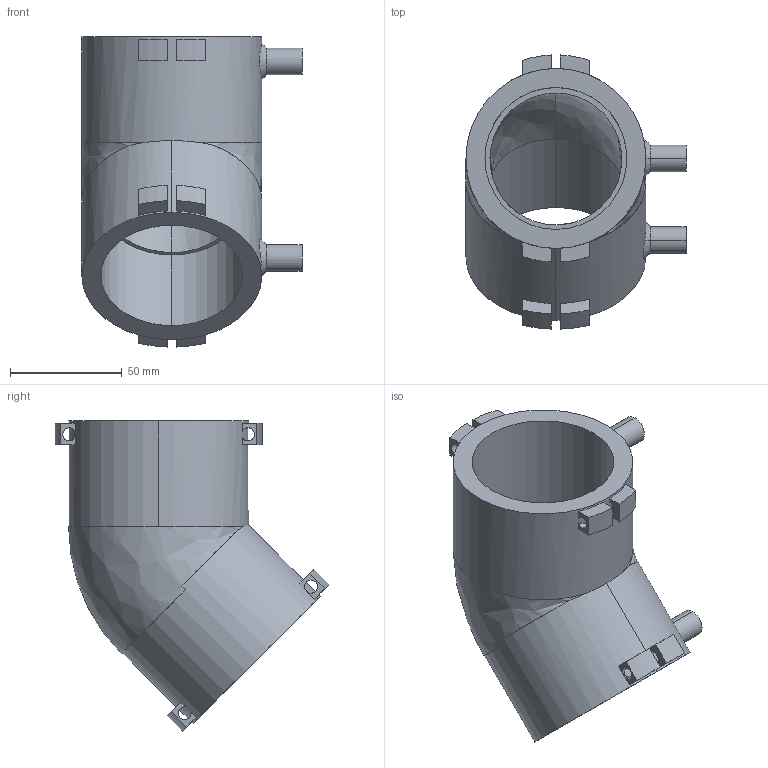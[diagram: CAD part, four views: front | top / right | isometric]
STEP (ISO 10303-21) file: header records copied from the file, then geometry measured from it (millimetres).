
FILE_DESCRIPTION (( 'STEP AP203' ), '1' );
FILE_NAME ('KP_24-63.step', '2011-08-08T11:39:13', ( '' ), ( '' ), 'SwSTEP 2.0', 'SolidWorks 2011', '' );
FILE_SCHEMA (( 'CONFIG_CONTROL_DESIGN' ));
Length unit declared in the file: millimetre
Products named in the file (1): KP_24-63
Bounding box: 98.5 x 122.54 x 138.73 mm (x, y, z)
Volume: 259270.4 mm3; surface area: 66237.1 mm2
Topology: 1 solids, 1 shells, 103 faces, 276 edges, 182 vertices
Faces by surface type: cylinder 50, plane 45, cone 4, bspline 4
Entity records: 4138 total; most frequent: CARTESIAN_POINT 1438, ORIENTED_EDGE 552, DIRECTION 545, EDGE_CURVE 276, AXIS2_PLACEMENT_3D 213, VERTEX_POINT 182, EDGE_LOOP 128, LINE 119
